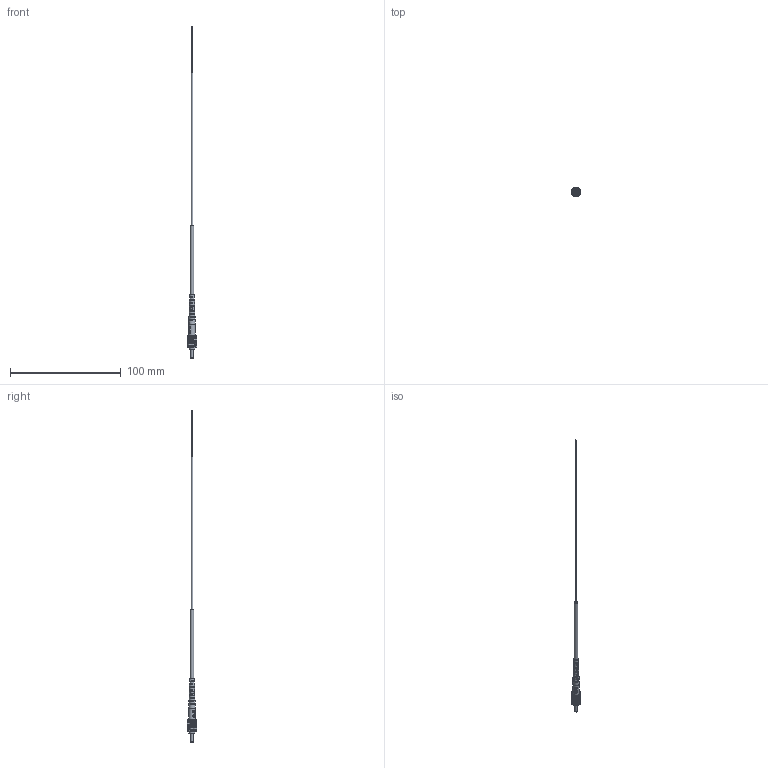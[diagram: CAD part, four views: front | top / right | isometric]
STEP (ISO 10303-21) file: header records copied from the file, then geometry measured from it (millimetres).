
FILE_DESCRIPTION (( 'STEP AP214' ), '1' );
FILE_NAME ('PRB-G40.STEP', '2016-01-04T17:19:09', ( 'Daryl' ), ( 'Microsoft' ), 'SwSTEP 2.0', 'SolidWorks 2014', '' );
FILE_SCHEMA (( 'AUTOMOTIVE_DESIGN' ));
Length unit declared in the file: millimetre
Products named in the file (1): PRB-G40
Bounding box: 9.02 x 9.02 x 300.2 mm (x, y, z)
Surface area: 4650.1 mm2 (no closed solid volume)
Topology: 0 solids, 8 shells, 529 faces, 1595 edges, 1054 vertices
Faces by surface type: plane 326, cylinder 183, bspline 19, cone 1
Full cylindrical faces by diameter (mm): 0.48 x1, 0.51 x1, 0.561 x1, 1.37 x1, 2.489 x1, 3.175 x1, 3.988 x1, 6 x1
Entity records: 24789 total; most frequent: CARTESIAN_POINT 5039, ORIENTED_EDGE 2980, DIRECTION 2744, EDGE_CURVE 1554, VECTOR 1046, LINE 1046, VERTEX_POINT 1034, AXIS2_PLACEMENT_3D 849
